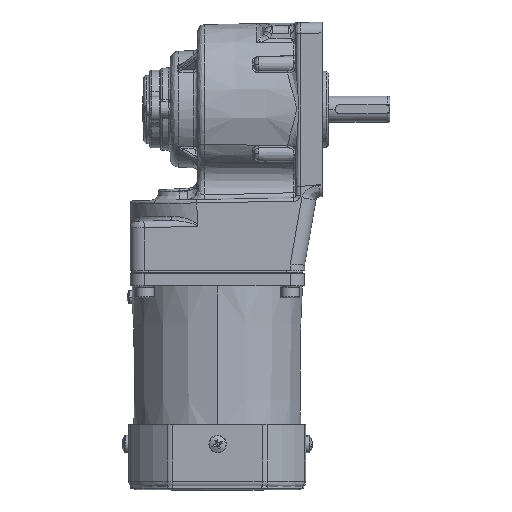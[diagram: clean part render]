
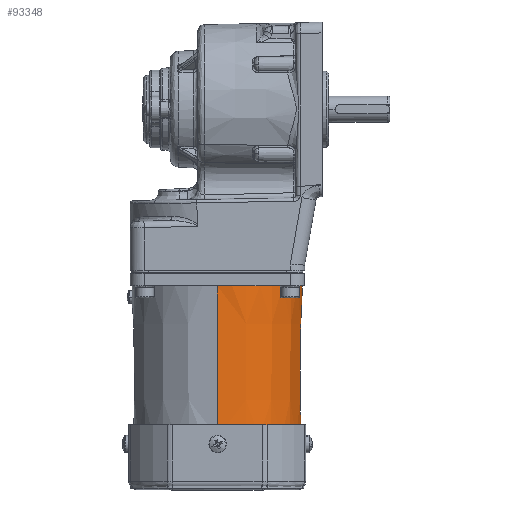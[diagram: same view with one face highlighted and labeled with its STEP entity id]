
A CAD part, front view. The second image highlights one B-rep face of the part: STEP entity #93348.
In plain terms, the highlighted conical face has half-angle 0.5 degrees and reference radius 39 mm.
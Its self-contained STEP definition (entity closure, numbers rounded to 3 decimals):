
#3518 = AXIS2_PLACEMENT_3D ( 'NONE', #54127, #39914, #92564 ) ;
#4380 = VERTEX_POINT ( 'NONE', #29898 ) ;
#10318 = VERTEX_POINT ( 'NONE', #81882 ) ;
#11870 = VECTOR ( 'NONE', #64172, 1000. ) ;
#13524 = CARTESIAN_POINT ( 'NONE',  ( 0., 0., -39. ) ) ;
#18585 = DIRECTION ( 'NONE',  ( 0., -1., -0.009 ) ) ;
#19879 = CIRCLE ( 'NONE', #20014, 38.393 ) ;
#20014 = AXIS2_PLACEMENT_3D ( 'NONE', #60640, #60566, #60544 ) ;
#23391 = CARTESIAN_POINT ( 'NONE',  ( 0., 0., 39. ) ) ;
#26957 = EDGE_CURVE ( 'NONE', #10318, #72216, #35663, .T. ) ;
#29898 = CARTESIAN_POINT ( 'NONE',  ( 0., 69.5, -38.393 ) ) ;
#31939 = CONICAL_SURFACE ( 'NONE', #73839, 39., 0.009 ) ;
#32315 = DIRECTION ( 'NONE',  ( 0., -1., 0. ) ) ;
#35663 = LINE ( 'NONE', #64187, #11870 ) ;
#39914 = DIRECTION ( 'NONE',  ( 0., 1., 0. ) ) ;
#40621 = EDGE_LOOP ( 'NONE', ( #55472, #79619, #90456, #45289 ) ) ;
#43118 = VECTOR ( 'NONE', #18585, 1000. ) ;
#45289 = ORIENTED_EDGE ( 'NONE', *, *, #78742, .F. ) ;
#45636 = EDGE_CURVE ( 'NONE', #72216, #93853, #76348, .T. ) ;
#46302 = LINE ( 'NONE', #91802, #43118 ) ;
#54127 = CARTESIAN_POINT ( 'NONE',  ( 0., 0., 0. ) ) ;
#55472 = ORIENTED_EDGE ( 'NONE', *, *, #61515, .T. ) ;
#60544 = DIRECTION ( 'NONE',  ( 0., 0., -1. ) ) ;
#60566 = DIRECTION ( 'NONE',  ( 0., -1., 0. ) ) ;
#60640 = CARTESIAN_POINT ( 'NONE',  ( 0., 69.5, 0. ) ) ;
#61515 = EDGE_CURVE ( 'NONE', #4380, #10318, #19879, .T. ) ;
#61704 = DIRECTION ( 'NONE',  ( 0., 0., -1. ) ) ;
#62012 = CARTESIAN_POINT ( 'NONE',  ( 0., 0., 0. ) ) ;
#64172 = DIRECTION ( 'NONE',  ( 0., -1., 0.009 ) ) ;
#64187 = CARTESIAN_POINT ( 'NONE',  ( 0., 0., 39. ) ) ;
#72216 = VERTEX_POINT ( 'NONE', #23391 ) ;
#73839 = AXIS2_PLACEMENT_3D ( 'NONE', #62012, #32315, #61704 ) ;
#76348 = CIRCLE ( 'NONE', #3518, 39. ) ;
#78742 = EDGE_CURVE ( 'NONE', #4380, #93853, #46302, .T. ) ;
#79356 = FACE_OUTER_BOUND ( 'NONE', #40621, .T. ) ;
#79619 = ORIENTED_EDGE ( 'NONE', *, *, #26957, .T. ) ;
#81882 = CARTESIAN_POINT ( 'NONE',  ( 0., 69.5, 38.393 ) ) ;
#90456 = ORIENTED_EDGE ( 'NONE', *, *, #45636, .T. ) ;
#91802 = CARTESIAN_POINT ( 'NONE',  ( 0., 0., -39. ) ) ;
#92564 = DIRECTION ( 'NONE',  ( 0., 0., -1. ) ) ;
#93348 = ADVANCED_FACE ( 'NONE', ( #79356 ), #31939, .T. ) ;
#93853 = VERTEX_POINT ( 'NONE', #13524 ) ;
